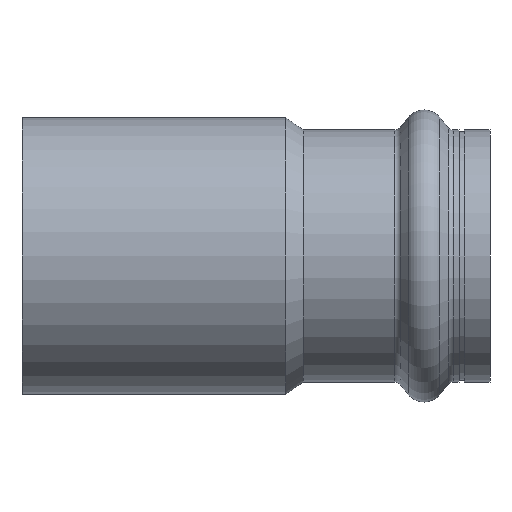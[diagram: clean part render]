
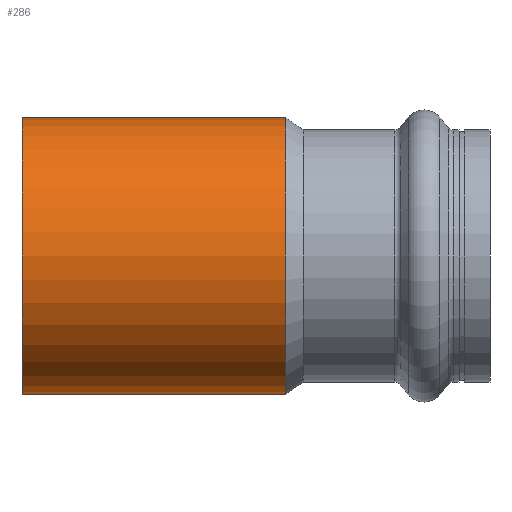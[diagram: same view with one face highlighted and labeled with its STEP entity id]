
A CAD part, front view. The second image highlights one B-rep face of the part: STEP entity #286.
In plain terms, the highlighted cylindrical face has radius 21 mm (diameter 42 mm), a partial arc.
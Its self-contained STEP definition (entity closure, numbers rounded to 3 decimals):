
#16 = CIRCLE ( 'NONE', #162, 21. ) ;
#20 = CARTESIAN_POINT ( 'NONE',  ( -4.079, 0., -21. ) ) ;
#48 = VERTEX_POINT ( 'NONE', #736 ) ;
#71 = DIRECTION ( 'NONE',  ( 0., 0., 1. ) ) ;
#112 = LINE ( 'NONE', #20, #1053 ) ;
#122 = DIRECTION ( 'NONE',  ( -1., 0., 0. ) ) ;
#162 = AXIS2_PLACEMENT_3D ( 'NONE', #648, #389, #375 ) ;
#242 = CIRCLE ( 'NONE', #338, 21. ) ;
#247 = VERTEX_POINT ( 'NONE', #568 ) ;
#286 = ADVANCED_FACE ( 'NONE', ( #884 ), #858, .T. ) ;
#315 = ORIENTED_EDGE ( 'NONE', *, *, #701, .T. ) ;
#338 = AXIS2_PLACEMENT_3D ( 'NONE', #420, #1072, #508 ) ;
#351 = CARTESIAN_POINT ( 'NONE',  ( -4.079, 0., 0. ) ) ;
#360 = CARTESIAN_POINT ( 'NONE',  ( 40., 0., 21. ) ) ;
#375 = DIRECTION ( 'NONE',  ( 0., 0., 1. ) ) ;
#389 = DIRECTION ( 'NONE',  ( -1., 0., 0. ) ) ;
#393 = DIRECTION ( 'NONE',  ( -1., 0., 0. ) ) ;
#396 = EDGE_CURVE ( 'NONE', #247, #48, #16, .T. ) ;
#420 = CARTESIAN_POINT ( 'NONE',  ( 40., 0., 0. ) ) ;
#422 = LINE ( 'NONE', #755, #995 ) ;
#441 = VERTEX_POINT ( 'NONE', #920 ) ;
#458 = ORIENTED_EDGE ( 'NONE', *, *, #396, .F. ) ;
#494 = EDGE_CURVE ( 'NONE', #1002, #48, #422, .T. ) ;
#508 = DIRECTION ( 'NONE',  ( 0., 0., 1. ) ) ;
#553 = EDGE_LOOP ( 'NONE', ( #915, #315, #603, #458 ) ) ;
#568 = CARTESIAN_POINT ( 'NONE',  ( 0., 0., -21. ) ) ;
#603 = ORIENTED_EDGE ( 'NONE', *, *, #494, .T. ) ;
#635 = EDGE_CURVE ( 'NONE', #441, #247, #112, .T. ) ;
#648 = CARTESIAN_POINT ( 'NONE',  ( 0., 0., 0. ) ) ;
#701 = EDGE_CURVE ( 'NONE', #441, #1002, #242, .T. ) ;
#736 = CARTESIAN_POINT ( 'NONE',  ( 0., 0., 21. ) ) ;
#755 = CARTESIAN_POINT ( 'NONE',  ( -4.079, 0., 21. ) ) ;
#756 = AXIS2_PLACEMENT_3D ( 'NONE', #351, #931, #71 ) ;
#858 = CYLINDRICAL_SURFACE ( 'NONE', #756, 21. ) ;
#884 = FACE_OUTER_BOUND ( 'NONE', #553, .T. ) ;
#915 = ORIENTED_EDGE ( 'NONE', *, *, #635, .F. ) ;
#920 = CARTESIAN_POINT ( 'NONE',  ( 40., 0., -21. ) ) ;
#931 = DIRECTION ( 'NONE',  ( -1., 0., 0. ) ) ;
#995 = VECTOR ( 'NONE', #393, 1000. ) ;
#1002 = VERTEX_POINT ( 'NONE', #360 ) ;
#1053 = VECTOR ( 'NONE', #122, 1000. ) ;
#1072 = DIRECTION ( 'NONE',  ( -1., 0., 0. ) ) ;
